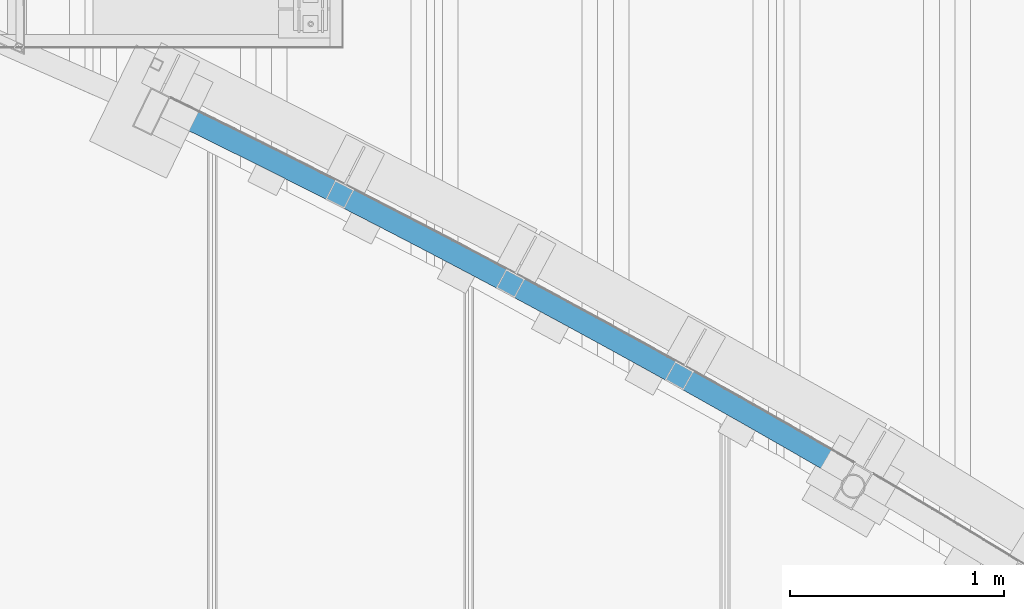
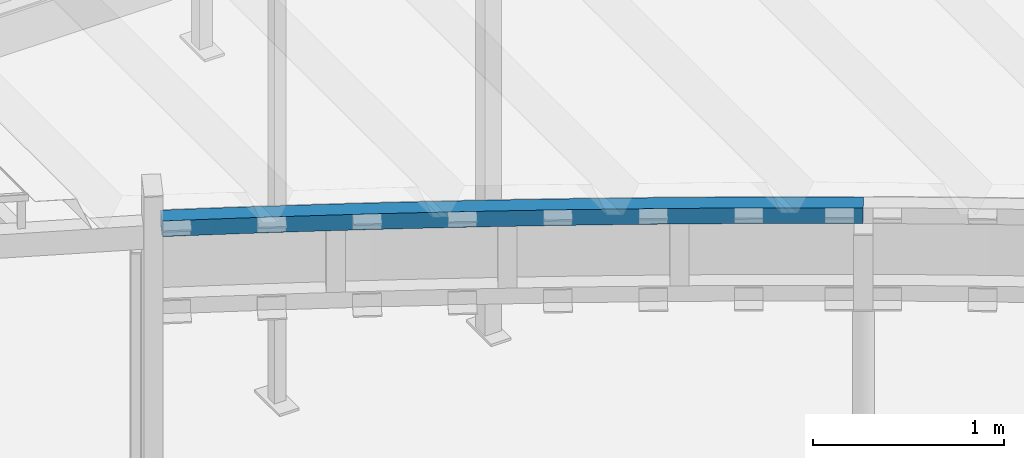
# One storey, part 18 of 98: 1 beam.
"""IFC2X3 building model written with IfcOpenShell, lengths in millimetres."""

from ifc_helpers import new_model, entity, si_unit, converted_unit, derived_unit, direction, frame, origin_with_axes, place, context, subcontext, project, spatial, faceted_brep, material, type_object, element, save


model = new_model("IFC2X3")

# Units and contexts
model_context = context("Model", 3, precision=0.01, world=frame((0.0, 4.29681676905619e-09, 0.0)), true_north=direction((4.01073788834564e-13, 1.0)))
plan_context = context("Plan", 3, precision=0.01, world=frame((0.0, 4.29681676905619e-09, 0.0)), true_north=direction((4.01073788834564e-13, 1.0)))
body_context = subcontext(model_context, "Body", "Model", "MODEL_VIEW")
ifc_project = project(units=[converted_unit("PLANEANGLEUNIT", "DEGREE", entity("IfcPositiveLengthMeasure", 0.0174532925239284), si_unit("PLANEANGLEUNIT", "RADIAN"), dimensions=[0, 0, 0, 0, 0, 0, 0]), si_unit("AREAUNIT", "SQUARE_METRE"), si_unit("LENGTHUNIT", "METRE", prefix="MILLI"), si_unit("MASSUNIT", "GRAM", prefix="KILO"), si_unit("POWERUNIT", "WATT"), si_unit("PRESSUREUNIT", "PASCAL"), si_unit("FORCEUNIT", "NEWTON", prefix="KILO"), si_unit("ELECTRICCURRENTUNIT", "AMPERE"), si_unit("THERMODYNAMICTEMPERATUREUNIT", "DEGREE_CELSIUS"), si_unit("TIMEUNIT", "SECOND"), si_unit("VOLUMEUNIT", "CUBIC_METRE"), derived_unit("LINEARVELOCITYUNIT", [(si_unit("LENGTHUNIT", "METRE"), 1), (si_unit("TIMEUNIT", "SECOND"), -1)]), derived_unit("VOLUMETRICFLOWRATEUNIT", [(si_unit("VOLUMEUNIT", "CUBIC_METRE"), 1), (si_unit("TIMEUNIT", "SECOND"), -1)]), derived_unit("THERMALTRANSMITTANCEUNIT", [(si_unit("POWERUNIT", "WATT"), 1), (si_unit("THERMODYNAMICTEMPERATUREUNIT", "KELVIN"), -1), (si_unit("AREAUNIT", "SQUARE_METRE"), -1)])], contexts=[model_context, plan_context])

# Site, building, storey
site_placement = place(None, frame((0.0, -4.29681676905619e-09, 0.0), z_axis=(0.0, 0.0, 1.0), x_axis=(1.0, 0.0, 0.0)))
site = spatial("IfcSite", under=ifc_project, at=site_placement, Name="Gardermoen", CompositionType="ELEMENT")
building_placement = place(site_placement, frame((0.0, 4.29681676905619e-09, 0.0), z_axis=(0.0, 0.0, 1.0), x_axis=(1.0, 0.0, 0.0)))
building = spatial("IfcBuilding", under=site, at=building_placement, Name="TS", CompositionType="ELEMENT")
storey_placement = place(building_placement, origin_with_axes())
storey = spatial("IfcBuildingStorey", under=building, at=storey_placement, Name="D", CompositionType="ELEMENT", Elevation=0.0)

# Beam
ifc_material = material(Name="STEEL/S355")
beam_type = type_object("IfcBeamType", Name="RHS100*6.3", PredefinedType="NOTDEFINED")
beam_placement = place(storey_placement, frame((516734.11446338, 412371.056100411, 207050.0), z_axis=(0.0, 0.0, 1.0), x_axis=(0.881699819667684, -0.471810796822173, 0.0)))
element("IfcBeam", 1, at=beam_placement, inside=storey, type_object=beam_type, material=ifc_material, Name="STÅLBJELKE", ObjectType="RHS100*6.3", context=body_context, shape_type="Brep", body=[
    faceted_brep([(78.3006283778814, -47.0121591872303, -50.0), (74.518780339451, 52.9163033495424, -50.0), (151.011795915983, 55.7508572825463, -50.0), (154.636137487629, -44.1834418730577, -50.0), (227.509184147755, 58.4648435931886, -50.0), (230.976010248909, -41.4750439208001, -50.0), (304.010754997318, 61.058255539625, -50.0), (307.320057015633, -38.8869720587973, -50.0), (380.516318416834, 63.5310866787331, -50.0), (383.668088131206, -36.4192327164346, -50.0), (457.025684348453, 65.8833308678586, -50.0), (460.019913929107, -34.0718320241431, -50.0), (533.538662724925, 68.1149822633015, -50.0), (536.375344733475, -31.8447758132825, -50.0), (610.055063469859, 70.2260353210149, -50.0), (612.734190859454, -29.7380696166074, -50.0), (686.574696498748, 72.2164847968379, -50.0), (689.096262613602, -27.7517186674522, -50.0), (763.097371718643, 74.0863257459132, -50.0), (765.461370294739, -25.8857279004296, -50.0), (839.622899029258, 75.8355535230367, -50.0), (841.829324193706, -24.1401019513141, -50.0), (916.151088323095, 77.4641637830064, -50.0), (918.199934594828, -22.5148451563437, -50.0), (992.681749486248, 78.972152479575, -50.0), (994.573011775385, -21.0099615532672, -50.0), (1069.21469239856, 80.3595158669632, -50.0), (1070.94836600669, -19.6254548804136, -50.0), (1145.74972693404, 81.6262504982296, -50.0), (1147.32580755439, -18.3613285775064, -50.0), (1222.28666296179, 82.7723532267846, -50.0), (1223.70514667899, -17.2175857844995, -50.0), (1298.82531034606, 83.7978212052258, -50.0), (1300.08619363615, -16.1942293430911, -50.0), (1375.36547894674, 84.7026518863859, -50.0), (1376.46875867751, -15.2912617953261, -50.0), (1451.90697862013, 85.4868430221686, -50.0), (1452.8526520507, -14.5086853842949, -50.0), (1528.44961921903, 86.15039266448, -50.0), (1529.2376840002, -13.8465020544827, -50.0), (1604.99321059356, 86.6932991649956, -50.0), (1605.62366476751, -13.304713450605, -50.0), (1681.53756259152, 87.1155611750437, -50.0), (1682.01040459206, -12.883320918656, -50.0), (1758.08248505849, 87.4171776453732, -50.0), (1758.39771371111, -12.5823255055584, -50.0), (1834.62778783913, 87.5981478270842, -50.0), (1834.78540236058, -12.4017279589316, -50.0), (1911.17328077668, 87.6584712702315, -50.0), (1911.17328077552, -12.3415287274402, -50.0), (1987.71877371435, 87.5981478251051, -50.0), (1987.56115919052, -12.4017279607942, -50.0), (2064.26407649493, 87.4171776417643, -50.0), (2063.94884783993, -12.5823255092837, -50.0), (2140.80899896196, 87.1155611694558, -50.0), (2140.33615695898, -12.8833209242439, -50.0), (2217.35335095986, 86.6932991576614, -50.0), (2216.72289678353, -13.3047134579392, -50.0), (2293.8969423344, 86.1503926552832, -50.0), (2293.10887755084, -13.8465020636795, -50.0), (2370.43958293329, 85.4868430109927, -50.0), (2369.49390950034, -14.5086853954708, -50.0), (2446.98108260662, 84.7026518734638, -50.0), (2445.87780287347, -15.2912618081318, -50.0), (2523.5212512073, 83.7978211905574, -50.0), (2522.26036791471, -16.1942293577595, -50.0), (2600.05989859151, 82.7723532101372, -50.0), (2598.64141487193, -17.2175858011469, -50.0), (2676.59683461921, 81.6262504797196, -50.0), (2675.02075399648, -18.3613285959, -50.0), (2753.13186915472, 80.3595158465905, -50.0), (2751.39819554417, -19.6254549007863, -50.0), (2829.66481206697, 78.9721524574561, -50.0), (2827.77354977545, -21.0099615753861, -50.0), (2906.19547323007, 77.4641637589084, -50.0), (2904.14662695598, -22.5148451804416, -50.0), (2982.72366252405, 75.8355534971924, -50.0), (2980.51723735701, -24.1401019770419, -50.0), (3059.24918983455, 74.0863257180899, -50.0), (3056.88519125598, -25.8857279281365, -50.0), (3135.77186505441, 72.2164847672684, -50.0), (3133.25029893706, -27.7517186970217, -50.0), (3212.29149808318, 70.2260352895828, -50.0), (3209.61237069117, -29.7380696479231, -50.0), (3288.80789882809, 68.1149822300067, -50.0), (3285.97121681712, -31.8447758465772, -50.0), (3365.32087720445, 65.8833308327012, -50.0), (3362.32664762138, -34.0718320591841, -50.0), (3441.83024313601, 63.5310866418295, -50.0), (3438.67847341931, -36.4192327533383, -50.0), (3518.33580655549, 61.0582555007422, -50.0), (3515.02650453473, -38.8869720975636, -50.0), (3594.83737740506, 58.4648435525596, -50.0), (3591.37055130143, -41.475043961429, -50.0), (3671.3347656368, 55.7508572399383, -50.0), (3667.71042406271, -44.1834419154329, -50.0), (3594.83737740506, 58.4648435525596, 50.0), (3671.3347656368, 55.7508572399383, 50.0), (3518.33580655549, 61.0582555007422, 50.0), (3441.83024313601, 63.5310866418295, 50.0), (3365.32087720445, 65.8833308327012, 50.0), (3288.80789882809, 68.1149822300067, 50.0), (3212.29149808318, 70.2260352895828, 50.0), (3135.77186505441, 72.2164847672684, 50.0), (3059.24918983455, 74.0863257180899, 50.0), (2982.72366252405, 75.8355534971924, 50.0), (2906.19547323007, 77.4641637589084, 50.0), (2829.66481206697, 78.9721524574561, 50.0), (2753.13186915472, 80.3595158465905, 50.0), (2676.59683461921, 81.6262504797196, 50.0), (2600.05989859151, 82.7723532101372, 50.0), (2523.5212512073, 83.7978211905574, 50.0), (2446.98108260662, 84.7026518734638, 50.0), (2370.43958293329, 85.4868430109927, 50.0), (2293.8969423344, 86.1503926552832, 50.0), (2217.35335095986, 86.6932991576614, 50.0), (2140.80899896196, 87.1155611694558, 50.0), (2064.26407649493, 87.4171776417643, 50.0), (1987.71877371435, 87.5981478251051, 50.0), (1911.17328077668, 87.6584712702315, 50.0), (1834.62778783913, 87.5981478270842, 50.0), (1758.08248505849, 87.4171776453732, 50.0), (1681.53756259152, 87.1155611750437, 50.0), (1604.99321059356, 86.6932991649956, 50.0), (1528.44961921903, 86.15039266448, 50.0), (1451.90697862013, 85.4868430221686, 50.0), (1375.36547894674, 84.7026518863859, 50.0), (1298.82531034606, 83.7978212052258, 50.0), (1222.28666296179, 82.7723532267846, 50.0), (1145.74972693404, 81.6262504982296, 50.0), (1069.21469239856, 80.3595158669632, 50.0), (992.681749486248, 78.972152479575, 50.0), (916.151088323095, 77.4641637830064, 50.0), (839.622899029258, 75.8355535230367, 50.0), (763.097371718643, 74.0863257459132, 50.0), (686.574696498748, 72.2164847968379, 50.0), (610.055063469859, 70.2260353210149, 50.0), (533.538662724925, 68.1149822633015, 50.0), (457.025684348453, 65.8833308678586, 50.0), (380.516318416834, 63.5310866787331, 50.0), (304.010754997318, 61.058255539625, 50.0), (227.509184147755, 58.4648435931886, 50.0), (151.011795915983, 55.7508572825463, 50.0), (74.518780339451, 52.9163033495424, 50.0), (78.3006283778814, -47.0121591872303, 50.0), (154.636137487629, -44.1834418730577, 50.0), (230.976010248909, -41.4750439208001, 50.0), (307.320057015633, -38.8869720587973, 50.0), (383.668088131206, -36.4192327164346, 50.0), (460.019913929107, -34.0718320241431, 50.0), (536.375344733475, -31.8447758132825, 50.0), (612.734190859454, -29.7380696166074, 50.0), (689.096262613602, -27.7517186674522, 50.0), (765.461370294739, -25.8857279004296, 50.0), (841.829324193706, -24.1401019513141, 50.0), (918.199934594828, -22.5148451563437, 50.0), (994.573011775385, -21.0099615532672, 50.0), (1070.94836600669, -19.6254548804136, 50.0), (1147.32580755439, -18.3613285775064, 50.0), (1223.70514667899, -17.2175857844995, 50.0), (1300.08619363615, -16.1942293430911, 50.0), (1376.46875867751, -15.2912617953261, 50.0), (1452.8526520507, -14.5086853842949, 50.0), (1529.2376840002, -13.8465020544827, 50.0), (1605.62366476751, -13.304713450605, 50.0), (1682.01040459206, -12.883320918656, 50.0), (1758.39771371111, -12.5823255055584, 50.0), (1834.78540236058, -12.4017279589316, 50.0), (1911.17328077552, -12.3415287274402, 50.0), (1987.56115919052, -12.4017279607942, 50.0), (2063.94884783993, -12.5823255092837, 50.0), (2140.33615695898, -12.8833209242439, 50.0), (2216.72289678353, -13.3047134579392, 50.0), (2293.10887755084, -13.8465020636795, 50.0), (2369.49390950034, -14.5086853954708, 50.0), (2445.87780287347, -15.2912618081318, 50.0), (2522.26036791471, -16.1942293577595, 50.0), (2598.64141487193, -17.2175858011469, 50.0), (2675.02075399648, -18.3613285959, 50.0), (2751.39819554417, -19.6254549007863, 50.0), (2827.77354977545, -21.0099615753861, 50.0), (2904.14662695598, -22.5148451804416, 50.0), (2980.51723735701, -24.1401019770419, 50.0), (3056.88519125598, -25.8857279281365, 50.0), (3133.25029893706, -27.7517186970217, 50.0), (3209.61237069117, -29.7380696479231, 50.0), (3285.97121681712, -31.8447758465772, 50.0), (3362.32664762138, -34.0718320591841, 50.0), (3438.67847341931, -36.4192327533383, 50.0), (3515.02650453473, -38.8869720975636, 50.0), (3591.37055130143, -41.475043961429, 50.0), (3667.71042406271, -44.1834419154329, 50.0), (3725.79070862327, -46.3356867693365, 50.0), (3730.16603191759, 53.5707837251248, 50.0), (3730.16603191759, 53.5707837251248, -50.0), (3725.79070862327, -46.3356867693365, -50.0), (51.9562388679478, -48.0299688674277, 50.0), (51.9562388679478, -48.0299688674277, -50.0), (48.0321698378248, 51.8929989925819, -50.0), (48.0321698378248, 51.8929989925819, 50.0), (74.7570367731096, 46.6208100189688, 43.6999998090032), (78.0623719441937, -40.7166658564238, 43.6999998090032), (51.7090225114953, -41.7348217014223, 43.6999998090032), (48.27938619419, 45.5978518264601, 43.6999998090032), (78.0623719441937, -40.7166658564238, -43.6999998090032), (74.7570367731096, 46.6208100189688, -43.6999998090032), (48.27938619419, 45.5978518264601, -43.6999998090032), (51.7090225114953, -41.7348217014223, -43.6999998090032), (151.240129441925, 49.4549962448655, -43.6999998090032), (151.240129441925, 49.4549962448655, 43.6999998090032), (154.407803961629, -37.8875808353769, 43.6999998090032), (154.407803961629, -37.8875808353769, -43.6999998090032), (230.757600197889, -35.1788308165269, -43.6999998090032), (227.727594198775, 52.1686304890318, -43.6999998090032), (227.727594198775, 52.1686304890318, 43.6999998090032), (230.757600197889, -35.1788308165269, 43.6999998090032), (307.111570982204, -32.5904225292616, 43.6999998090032), (307.111570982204, -32.5904225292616, -43.6999998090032), (304.219241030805, 54.7617060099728, -43.6999998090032), (304.219241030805, 54.7617060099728, 43.6999998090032), (380.714879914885, 57.2342163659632, 43.6999998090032), (383.469526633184, -30.1223624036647, 43.6999998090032), (383.469526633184, -30.1223624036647, -43.6999998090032), (380.714879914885, 57.2342163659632, -43.6999998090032), (457.214320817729, 59.5861554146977, -43.6999998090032), (457.214320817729, 59.5861554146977, 43.6999998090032), (459.831277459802, -27.7746565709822, 43.6999998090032), (459.831277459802, -27.7746565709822, -43.6999998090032), (536.196633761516, -25.5473108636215, -43.6999998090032), (533.717373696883, 61.8175173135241, -43.6999998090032), (533.717373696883, 61.8175173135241, 43.6999998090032), (536.196633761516, -25.5473108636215, 43.6999998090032), (612.565405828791, -23.4403308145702, 43.6999998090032), (612.565405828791, -23.4403308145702, -43.6999998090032), (610.223848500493, 63.9282965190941, -43.6999998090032), (610.223848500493, 63.9282965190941, 43.6999998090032), (686.733555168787, 65.918487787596, 43.6999998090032), (688.937403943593, -21.4537216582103, 43.6999998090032), (688.937403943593, -21.4537216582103, -43.6999998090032), (686.733555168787, 65.918487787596, -43.6999998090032), (763.246303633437, 67.7880861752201, -43.6999998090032), (763.246303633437, 67.7880861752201, 43.6999998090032), (765.312438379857, -19.5874883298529, 43.6999998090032), (765.312438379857, -19.5874883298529, -43.6999998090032), (841.690319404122, -17.8416354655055, -43.6999998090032), (839.761903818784, 69.537087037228, -43.6999998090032), (839.761903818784, 69.537087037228, 43.6999998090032), (841.690319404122, -17.8416354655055, 43.6999998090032), (918.070857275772, -16.2161674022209, 43.6999998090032), (918.070857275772, -16.2161674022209, -43.6999998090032), (916.280165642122, 71.1654860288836, -43.6999998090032), (916.280165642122, 71.1654860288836, 43.6999998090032), (992.80089901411, 72.6732791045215, 43.6999998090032), (994.453862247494, -14.7110881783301, 43.6999998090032), (994.453862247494, -14.7110881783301, -43.6999998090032), (992.80089901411, 72.6732791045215, -43.6999998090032), (1069.32391383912, 74.060462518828, -43.6999998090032), (1069.32391383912, 74.060462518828, 43.6999998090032), (1070.83914456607, -13.3264015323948, 43.6999998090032), (1070.83914456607, -13.3264015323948, -43.6999998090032), (1147.22651447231, -12.0621109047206, -43.6999998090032), (1145.84902001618, 75.3270328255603, -43.6999998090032), (1145.84902001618, 75.3270328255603, 43.6999998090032), (1147.22651447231, -12.0621109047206, 43.6999998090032), (1223.61578220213, -10.9182194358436, 43.6999998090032), (1223.61578220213, -10.9182194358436, -43.6999998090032), (1222.3760274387, 76.4729868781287, -43.6999998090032), (1222.3760274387, 76.4729868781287, 43.6999998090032), (1298.90474599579, 77.4983218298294, 43.6999998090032), (1300.00675798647, -9.8947299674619, 43.6999998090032), (1300.00675798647, -9.8947299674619, -43.6999998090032), (1298.90474599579, 77.4983218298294, -43.6999998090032), (1375.43498557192, 78.403035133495, -43.6999998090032), (1375.43498557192, 78.403035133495, 43.6999998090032), (1376.39925205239, -8.99164504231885, 43.6999998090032), (1376.39925205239, -8.99164504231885, -43.6999998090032), (1452.79307462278, -8.20896690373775, -43.6999998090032), (1451.96655604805, 79.1871245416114, -43.6999998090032), (1451.96655604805, 79.1871245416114, 43.6999998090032), (1452.79307462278, -8.20896690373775, 43.6999998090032), (1529.1880359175, -7.54669749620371, 43.6999998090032), (1529.1880359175, -7.54669749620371, -43.6999998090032), (1528.49926730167, 79.850588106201, -43.6999998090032), (1528.49926730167, 79.850588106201, 43.6999998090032), (1605.03292920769, 80.3934241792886, 43.6999998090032), (1605.58394615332, -7.00483846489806, 43.6999998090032), (1605.58394615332, -7.00483846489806, -43.6999998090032), (1605.03292920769, 80.3934241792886, -43.6999998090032), (1681.56735163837, 80.8156314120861, -43.6999998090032), (1681.56735163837, 80.8156314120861, 43.6999998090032), (1681.98061554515, -6.58339115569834, 43.6999998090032), (1681.98061554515, -6.58339115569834, -43.6999998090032), (1758.37785430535, -6.28235661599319, -43.6999998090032), (1758.10234446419, 81.1172087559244, -43.6999998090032), (1758.10234446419, 81.1172087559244, 43.6999998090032), (1758.37785430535, -6.28235661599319, 43.6999998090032), (1834.77547264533, -6.10173559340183, 43.6999998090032), (1834.77547264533, -6.10173559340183, -43.6999998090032), (1834.63771755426, 81.2981554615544, -43.6999998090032), (1834.63771755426, 81.2981554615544, 43.6999998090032), (1911.17328077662, 81.3584710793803, 43.6999998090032), (1911.17328077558, -6.0415285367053, 43.6999998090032), (1911.17328077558, -6.0415285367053, -43.6999998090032), (1911.17328077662, 81.3584710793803, -43.6999998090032), (1987.70884399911, 81.2981554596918, -43.6999998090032), (1987.70884399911, 81.2981554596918, 43.6999998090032), (1987.57108890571, -6.10173559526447, 43.6999998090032), (1987.57108890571, -6.10173559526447, -43.6999998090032), (2063.9687072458, -6.28235661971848, -43.6999998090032), (2064.24421708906, 81.1172087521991, -43.6999998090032), (2064.24421708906, 81.1172087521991, 43.6999998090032), (2063.9687072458, -6.28235661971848, 43.6999998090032), (2140.36594600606, -6.58339116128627, 43.6999998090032), (2140.36594600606, -6.58339116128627, -43.6999998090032), (2140.77920991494, 80.8156314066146, -43.6999998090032), (2140.77920991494, 80.8156314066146, 43.6999998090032), (2217.31363234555, 80.393424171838, 43.6999998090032), (2216.76261539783, -7.00483847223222, 43.6999998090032), (2216.76261539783, -7.00483847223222, -43.6999998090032), (2217.31363234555, 80.393424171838, -43.6999998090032), (2293.84729425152, 79.8505880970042, -43.6999998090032), (2293.84729425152, 79.8505880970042, 43.6999998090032), (2293.15852563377, -7.54669750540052, 43.6999998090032), (2293.15852563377, -7.54669750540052, -43.6999998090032), (2369.55348692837, -8.2089669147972, -43.6999998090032), (2370.3800055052, 79.1871245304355, -43.6999998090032), (2370.3800055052, 79.1871245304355, 43.6999998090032), (2369.55348692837, -8.2089669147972, 43.6999998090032), (2445.9473094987, -8.99164505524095, 43.6999998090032), (2445.9473094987, -8.99164505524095, -43.6999998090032), (2446.91157598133, 78.4030351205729, -43.6999998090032), (2446.91157598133, 78.4030351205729, 43.6999998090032), (2523.44181555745, 77.4983218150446, 43.6999998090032), (2522.33980356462, -9.89472998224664, 43.6999998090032), (2522.33980356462, -9.89472998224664, -43.6999998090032), (2523.44181555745, 77.4983218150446, -43.6999998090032), (2599.97053411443, 76.4729868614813, -43.6999998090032), (2599.97053411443, 76.4729868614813, 43.6999998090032), (2598.73077934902, -10.9182194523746, 43.6999998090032), (2598.73077934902, -10.9182194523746, -43.6999998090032), (2675.12004707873, -12.0621109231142, -43.6999998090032), (2676.49754153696, 75.3270328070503, -43.6999998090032), (2676.49754153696, 75.3270328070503, 43.6999998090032), (2675.12004707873, -12.0621109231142, 43.6999998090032), (2751.50741698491, -13.3264015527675, 43.6999998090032), (2751.50741698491, -13.3264015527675, -43.6999998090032), (2753.02264771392, 74.0604624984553, -43.6999998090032), (2753.02264771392, 74.0604624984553, 43.6999998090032), (2829.54566253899, 72.6732790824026, 43.6999998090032), (2827.89269930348, -14.711088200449, 43.6999998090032), (2827.89269930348, -14.711088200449, -43.6999998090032), (2829.54566253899, 72.6732790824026, -43.6999998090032), (2906.06639591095, 71.1654860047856, -43.6999998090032), (2906.06639591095, 71.1654860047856, 43.6999998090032), (2904.27570427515, -16.2161674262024, 43.6999998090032), (2904.27570427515, -16.2161674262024, -43.6999998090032), (2980.65624214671, -17.8416354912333, -43.6999998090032), (2982.58465773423, 69.5370870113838, -43.6999998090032), (2982.58465773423, 69.5370870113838, 43.6999998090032), (2980.65624214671, -17.8416354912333, 43.6999998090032), (3057.03412317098, -19.5874883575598, 43.6999998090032), (3057.03412317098, -19.5874883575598, -43.6999998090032), (3059.10025791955, 67.7880861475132, -43.6999998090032), (3059.10025791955, 67.7880861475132, 43.6999998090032), (3135.61300638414, 65.9184877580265, 43.6999998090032), (3133.40915760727, -21.4537216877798, 43.6999998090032), (3133.40915760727, -21.4537216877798, -43.6999998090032), (3135.61300638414, 65.9184877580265, -43.6999998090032), (3212.12271305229, 63.928296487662, -43.6999998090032), (3212.12271305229, 63.928296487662, 43.6999998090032), (3209.78115572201, -23.4403308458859, 43.6999998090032), (3209.78115572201, -23.4403308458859, -43.6999998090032), (3286.14992778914, -25.5473108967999, -43.6999998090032), (3288.62918785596, 61.8175172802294, -43.6999998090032), (3288.62918785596, 61.8175172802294, 43.6999998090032), (3286.14992778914, -25.5473108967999, 43.6999998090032), (3362.5152840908, -27.7746566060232, 43.6999998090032), (3362.5152840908, -27.7746566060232, -43.6999998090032), (3365.13224073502, 59.5861553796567, -43.6999998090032), (3365.13224073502, 59.5861553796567, 43.6999998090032), (3441.63168163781, 57.2342163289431, 43.6999998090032), (3438.87703491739, -30.1223624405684, 43.6999998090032), (3438.87703491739, -30.1223624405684, -43.6999998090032), (3441.63168163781, 57.2342163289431, -43.6999998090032), (3518.12732052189, 54.7617059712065, -43.6999998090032), (3518.12732052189, 54.7617059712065, 43.6999998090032), (3515.2349905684, -32.5904225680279, 43.6999998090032), (3515.2349905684, -32.5904225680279, -43.6999998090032), (3591.58896135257, -35.1788308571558, -43.6999998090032), (3594.61896735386, 52.1686304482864, -43.6999998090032), (3594.61896735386, 52.1686304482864, 43.6999998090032), (3591.58896135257, -35.1788308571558, 43.6999998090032), (3667.93875758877, -37.887580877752, 43.6999998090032), (3667.93875758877, -37.887580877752, -43.6999998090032), (3671.10643211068, 49.4549962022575, -43.6999998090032), (3671.10643211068, 49.4549962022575, 43.6999998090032), (3729.89038654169, 47.2766758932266, 43.6999998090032), (3726.06635399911, -40.0415789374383, 43.6999998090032), (3726.06635399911, -40.0415789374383, -43.6999998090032), (3729.89038654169, 47.2766758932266, -43.6999998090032)], [[[0, 1, 2, 3]], [[3, 2, 4, 5]], [[5, 4, 6, 7]], [[7, 6, 8, 9]], [[9, 8, 10, 11]], [[11, 10, 12, 13]], [[13, 12, 14, 15]], [[15, 14, 16, 17]], [[17, 16, 18, 19]], [[19, 18, 20, 21]], [[21, 20, 22, 23]], [[23, 22, 24, 25]], [[25, 24, 26, 27]], [[27, 26, 28, 29]], [[29, 28, 30, 31]], [[31, 30, 32, 33]], [[33, 32, 34, 35]], [[35, 34, 36, 37]], [[37, 36, 38, 39]], [[39, 38, 40, 41]], [[41, 40, 42, 43]], [[43, 42, 44, 45]], [[45, 44, 46, 47]], [[47, 46, 48, 49]], [[49, 48, 50, 51]], [[51, 50, 52, 53]], [[53, 52, 54, 55]], [[55, 54, 56, 57]], [[57, 56, 58, 59]], [[59, 58, 60, 61]], [[61, 60, 62, 63]], [[63, 62, 64, 65]], [[65, 64, 66, 67]], [[67, 66, 68, 69]], [[69, 68, 70, 71]], [[71, 70, 72, 73]], [[73, 72, 74, 75]], [[75, 74, 76, 77]], [[77, 76, 78, 79]], [[79, 78, 80, 81]], [[81, 80, 82, 83]], [[83, 82, 84, 85]], [[85, 84, 86, 87]], [[87, 86, 88, 89]], [[89, 88, 90, 91]], [[91, 90, 92, 93]], [[93, 92, 94, 95]], [[92, 96, 97, 94]], [[90, 98, 96, 92]], [[88, 99, 98, 90]], [[86, 100, 99, 88]], [[84, 101, 100, 86]], [[82, 102, 101, 84]], [[80, 103, 102, 82]], [[78, 104, 103, 80]], [[76, 105, 104, 78]], [[74, 106, 105, 76]], [[72, 107, 106, 74]], [[70, 108, 107, 72]], [[68, 109, 108, 70]], [[66, 110, 109, 68]], [[64, 111, 110, 66]], [[62, 112, 111, 64]], [[60, 113, 112, 62]], [[58, 114, 113, 60]], [[56, 115, 114, 58]], [[54, 116, 115, 56]], [[52, 117, 116, 54]], [[50, 118, 117, 52]], [[48, 119, 118, 50]], [[46, 120, 119, 48]], [[44, 121, 120, 46]], [[42, 122, 121, 44]], [[40, 123, 122, 42]], [[38, 124, 123, 40]], [[36, 125, 124, 38]], [[34, 126, 125, 36]], [[32, 127, 126, 34]], [[30, 128, 127, 32]], [[28, 129, 128, 30]], [[26, 130, 129, 28]], [[24, 131, 130, 26]], [[22, 132, 131, 24]], [[20, 133, 132, 22]], [[18, 134, 133, 20]], [[16, 135, 134, 18]], [[14, 136, 135, 16]], [[12, 137, 136, 14]], [[10, 138, 137, 12]], [[8, 139, 138, 10]], [[6, 140, 139, 8]], [[4, 141, 140, 6]], [[2, 142, 141, 4]], [[1, 143, 142, 2]], [[143, 144, 145, 142]], [[142, 145, 146, 141]], [[141, 146, 147, 140]], [[140, 147, 148, 139]], [[139, 148, 149, 138]], [[138, 149, 150, 137]], [[137, 150, 151, 136]], [[136, 151, 152, 135]], [[135, 152, 153, 134]], [[134, 153, 154, 133]], [[133, 154, 155, 132]], [[132, 155, 156, 131]], [[131, 156, 157, 130]], [[130, 157, 158, 129]], [[129, 158, 159, 128]], [[128, 159, 160, 127]], [[127, 160, 161, 126]], [[126, 161, 162, 125]], [[125, 162, 163, 124]], [[124, 163, 164, 123]], [[123, 164, 165, 122]], [[122, 165, 166, 121]], [[121, 166, 167, 120]], [[120, 167, 168, 119]], [[119, 168, 169, 118]], [[118, 169, 170, 117]], [[117, 170, 171, 116]], [[116, 171, 172, 115]], [[115, 172, 173, 114]], [[114, 173, 174, 113]], [[113, 174, 175, 112]], [[112, 175, 176, 111]], [[111, 176, 177, 110]], [[110, 177, 178, 109]], [[109, 178, 179, 108]], [[108, 179, 180, 107]], [[107, 180, 181, 106]], [[106, 181, 182, 105]], [[105, 182, 183, 104]], [[104, 183, 184, 103]], [[103, 184, 185, 102]], [[102, 185, 186, 101]], [[101, 186, 187, 100]], [[100, 187, 188, 99]], [[99, 188, 189, 98]], [[98, 189, 190, 96]], [[96, 190, 191, 97]], [[97, 191, 192, 193]], [[94, 97, 193, 194]], [[95, 94, 194, 195]], [[191, 95, 195, 192]], [[190, 93, 95, 191]], [[189, 91, 93, 190]], [[188, 89, 91, 189]], [[187, 87, 89, 188]], [[186, 85, 87, 187]], [[185, 83, 85, 186]], [[184, 81, 83, 185]], [[183, 79, 81, 184]], [[182, 77, 79, 183]], [[181, 75, 77, 182]], [[180, 73, 75, 181]], [[179, 71, 73, 180]], [[178, 69, 71, 179]], [[177, 67, 69, 178]], [[176, 65, 67, 177]], [[175, 63, 65, 176]], [[174, 61, 63, 175]], [[173, 59, 61, 174]], [[172, 57, 59, 173]], [[171, 55, 57, 172]], [[170, 53, 55, 171]], [[169, 51, 53, 170]], [[168, 49, 51, 169]], [[167, 47, 49, 168]], [[166, 45, 47, 167]], [[165, 43, 45, 166]], [[164, 41, 43, 165]], [[163, 39, 41, 164]], [[162, 37, 39, 163]], [[161, 35, 37, 162]], [[160, 33, 35, 161]], [[159, 31, 33, 160]], [[158, 29, 31, 159]], [[157, 27, 29, 158]], [[156, 25, 27, 157]], [[155, 23, 25, 156]], [[154, 21, 23, 155]], [[153, 19, 21, 154]], [[152, 17, 19, 153]], [[151, 15, 17, 152]], [[150, 13, 15, 151]], [[149, 11, 13, 150]], [[148, 9, 11, 149]], [[147, 7, 9, 148]], [[146, 5, 7, 147]], [[145, 3, 5, 146]], [[144, 0, 3, 145]], [[0, 144, 196, 197]], [[1, 0, 197, 198]], [[143, 1, 198, 199]], [[144, 143, 199, 196]], [[200, 201, 202, 203]], [[204, 205, 206, 207]], [[201, 204, 207, 202]], [[198, 197, 196, 199], [206, 203, 202, 207]], [[205, 200, 203, 206]], [[200, 205, 208, 209]], [[201, 200, 209, 210]], [[204, 201, 210, 211]], [[205, 204, 211, 208]], [[208, 211, 212, 213]], [[209, 208, 213, 214]], [[210, 209, 214, 215]], [[211, 210, 215, 212]], [[212, 215, 216, 217]], [[213, 212, 217, 218]], [[214, 213, 218, 219]], [[215, 214, 219, 216]], [[216, 219, 220, 221]], [[217, 216, 221, 222]], [[218, 217, 222, 223]], [[219, 218, 223, 220]], [[220, 223, 224, 225]], [[221, 220, 225, 226]], [[222, 221, 226, 227]], [[223, 222, 227, 224]], [[224, 227, 228, 229]], [[225, 224, 229, 230]], [[226, 225, 230, 231]], [[227, 226, 231, 228]], [[228, 231, 232, 233]], [[229, 228, 233, 234]], [[230, 229, 234, 235]], [[231, 230, 235, 232]], [[232, 235, 236, 237]], [[233, 232, 237, 238]], [[234, 233, 238, 239]], [[235, 234, 239, 236]], [[236, 239, 240, 241]], [[237, 236, 241, 242]], [[238, 237, 242, 243]], [[239, 238, 243, 240]], [[240, 243, 244, 245]], [[241, 240, 245, 246]], [[242, 241, 246, 247]], [[243, 242, 247, 244]], [[244, 247, 248, 249]], [[245, 244, 249, 250]], [[246, 245, 250, 251]], [[247, 246, 251, 248]], [[248, 251, 252, 253]], [[249, 248, 253, 254]], [[250, 249, 254, 255]], [[251, 250, 255, 252]], [[252, 255, 256, 257]], [[253, 252, 257, 258]], [[254, 253, 258, 259]], [[255, 254, 259, 256]], [[256, 259, 260, 261]], [[257, 256, 261, 262]], [[258, 257, 262, 263]], [[259, 258, 263, 260]], [[260, 263, 264, 265]], [[261, 260, 265, 266]], [[262, 261, 266, 267]], [[263, 262, 267, 264]], [[264, 267, 268, 269]], [[265, 264, 269, 270]], [[266, 265, 270, 271]], [[267, 266, 271, 268]], [[268, 271, 272, 273]], [[269, 268, 273, 274]], [[270, 269, 274, 275]], [[271, 270, 275, 272]], [[272, 275, 276, 277]], [[273, 272, 277, 278]], [[274, 273, 278, 279]], [[275, 274, 279, 276]], [[276, 279, 280, 281]], [[277, 276, 281, 282]], [[278, 277, 282, 283]], [[279, 278, 283, 280]], [[280, 283, 284, 285]], [[281, 280, 285, 286]], [[282, 281, 286, 287]], [[283, 282, 287, 284]], [[284, 287, 288, 289]], [[285, 284, 289, 290]], [[286, 285, 290, 291]], [[287, 286, 291, 288]], [[288, 291, 292, 293]], [[289, 288, 293, 294]], [[290, 289, 294, 295]], [[291, 290, 295, 292]], [[292, 295, 296, 297]], [[293, 292, 297, 298]], [[294, 293, 298, 299]], [[295, 294, 299, 296]], [[296, 299, 300, 301]], [[297, 296, 301, 302]], [[298, 297, 302, 303]], [[299, 298, 303, 300]], [[300, 303, 304, 305]], [[301, 300, 305, 306]], [[302, 301, 306, 307]], [[303, 302, 307, 304]], [[304, 307, 308, 309]], [[305, 304, 309, 310]], [[306, 305, 310, 311]], [[307, 306, 311, 308]], [[308, 311, 312, 313]], [[309, 308, 313, 314]], [[310, 309, 314, 315]], [[311, 310, 315, 312]], [[312, 315, 316, 317]], [[313, 312, 317, 318]], [[314, 313, 318, 319]], [[315, 314, 319, 316]], [[316, 319, 320, 321]], [[317, 316, 321, 322]], [[318, 317, 322, 323]], [[319, 318, 323, 320]], [[320, 323, 324, 325]], [[321, 320, 325, 326]], [[322, 321, 326, 327]], [[323, 322, 327, 324]], [[324, 327, 328, 329]], [[325, 324, 329, 330]], [[326, 325, 330, 331]], [[327, 326, 331, 328]], [[328, 331, 332, 333]], [[329, 328, 333, 334]], [[330, 329, 334, 335]], [[331, 330, 335, 332]], [[332, 335, 336, 337]], [[333, 332, 337, 338]], [[334, 333, 338, 339]], [[335, 334, 339, 336]], [[336, 339, 340, 341]], [[337, 336, 341, 342]], [[338, 337, 342, 343]], [[339, 338, 343, 340]], [[340, 343, 344, 345]], [[341, 340, 345, 346]], [[342, 341, 346, 347]], [[343, 342, 347, 344]], [[344, 347, 348, 349]], [[345, 344, 349, 350]], [[346, 345, 350, 351]], [[347, 346, 351, 348]], [[348, 351, 352, 353]], [[349, 348, 353, 354]], [[350, 349, 354, 355]], [[351, 350, 355, 352]], [[352, 355, 356, 357]], [[353, 352, 357, 358]], [[354, 353, 358, 359]], [[355, 354, 359, 356]], [[356, 359, 360, 361]], [[357, 356, 361, 362]], [[358, 357, 362, 363]], [[359, 358, 363, 360]], [[360, 363, 364, 365]], [[361, 360, 365, 366]], [[362, 361, 366, 367]], [[363, 362, 367, 364]], [[364, 367, 368, 369]], [[365, 364, 369, 370]], [[366, 365, 370, 371]], [[367, 366, 371, 368]], [[368, 371, 372, 373]], [[369, 368, 373, 374]], [[370, 369, 374, 375]], [[371, 370, 375, 372]], [[372, 375, 376, 377]], [[373, 372, 377, 378]], [[374, 373, 378, 379]], [[375, 374, 379, 376]], [[376, 379, 380, 381]], [[377, 376, 381, 382]], [[378, 377, 382, 383]], [[379, 378, 383, 380]], [[380, 383, 384, 385]], [[381, 380, 385, 386]], [[382, 381, 386, 387]], [[383, 382, 387, 384]], [[384, 387, 388, 389]], [[385, 384, 389, 390]], [[386, 385, 390, 391]], [[387, 386, 391, 388]], [[388, 391, 392, 393]], [[389, 388, 393, 394]], [[390, 389, 394, 395]], [[391, 390, 395, 392]], [[392, 395, 396, 397]], [[393, 392, 397, 398]], [[394, 393, 398, 399]], [[395, 394, 399, 396]], [[195, 194, 193, 192], [398, 397, 396, 399]]]),
])

save(model, "model.ifc")
